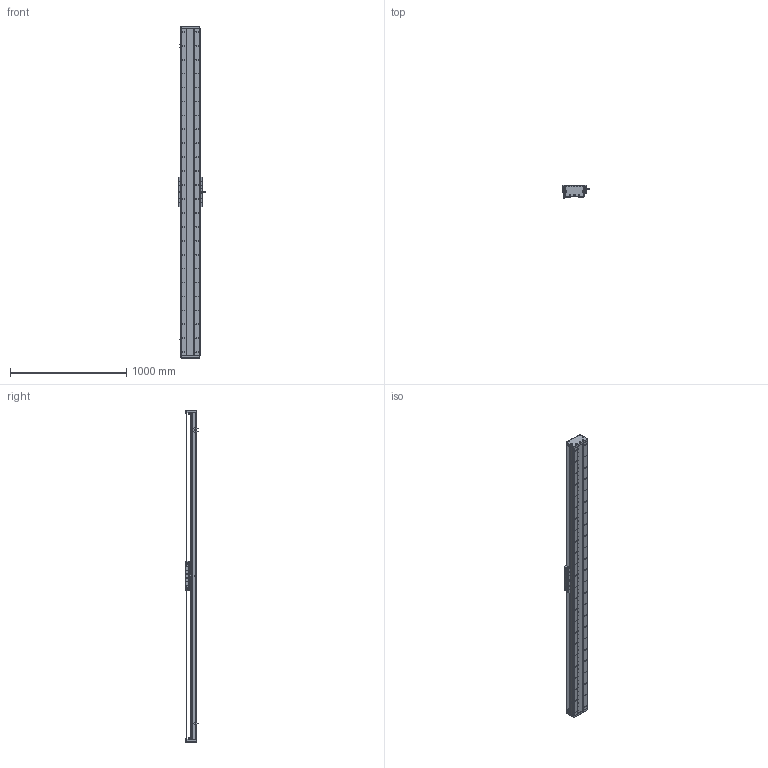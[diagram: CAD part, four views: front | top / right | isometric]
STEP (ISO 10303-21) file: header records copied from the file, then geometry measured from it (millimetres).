
FILE_DESCRIPTION (( 'STEP AP203' ), '1' );
FILE_NAME ('DA-C165-C3-T2520-C010-0.2 直线电机.STEP', '2023-06-13T08:54:33', ( '微软用户' ), ( '微软中国' ), 'SwSTEP 2.0', 'SolidWorks 2019', '' );
FILE_SCHEMA (( 'CONFIG_CONTROL_DESIGN' ));
Length unit declared in the file: millimetre
Products named in the file (18): 复件 DA165-GD-DG-H-00 端盖^复件 CU165钢带组件_DA-C165-C3-T-C010-0.2-N 直线电机; DA-C165-C3-T2520-C010-0.2 眻盄萇儂; 复件 DMA-010-0.2 读数头^DA-C165-C3-T-C010-0.2-N 直线电机; 葩璃 DA95-GT-T-00^IU-CU165-L 菁釱絳寢_T; 复件 DA95-HXJ-00 缓冲橡胶^DA-C165-C3-T-C010-0.2-N 直线电机; 珨极趙賑雄怢啣C3-wf; IU-CU165-L 菁釱絳寢; 复件 DA165-GD-1860-002-00 钢带盖板^复件 CU165钢带组件_DA-C165-C3-T-C010-0.2-N 直线电机; 葩璃 PM-T45^DA-C165-C3-T-C010-0.2-N 眻盄萇儂; 葩璃 CKM03-W075-C1C2-TP-3.0^DA-C165-C3-T-C010-0.2-N 眻盄萇儂; 复件 DA165-GDYK-00 钢带压块^复件 CU165钢带组件_DA-C165-C3-T-C010-0.2-N 直线电机; 葩璃 CKM01-W075-TRL^DA-C165-C3-T-C010-0.2-N 眻盄萇儂; 复件 CU165钢带组件^DA-C165-C3-T-C010-0.2-N 直线电机; 复件 XD-U-02L 磁栅尺^DA-C165-C3-T-C010-0.2-N 直线电机_T; 复件 DA165-GDLK-00 钢带拉块^复件 CU165钢带组件_DA-C165-C3-T-C010-0.2-N 直线电机; 复件 CU165 底座^IU-CU165-L 底座导轨_L2820; 复件 六角薄螺母 M3^DA-C165-C3-T-C010-0.2-N 直线电机_GB_FASTENER_NUT_STNAB M3-C; 复件 DA165-GYP-00 光电感应片^DA-C165-C3-T-C010-0.2-N 直线电机
Assembly tree (35 placements, depth 3):
  DA-C165-C3-T2520-C010-0.2 眻盄萇儂
    IU-CU165-L 菁釱絳寢
      复件 CU165 底座^IU-CU165-L 底座导轨_L2820
      葩璃 DA95-GT-T-00^IU-CU165-L 菁釱絳寢_T  x4
    复件 XD-U-02L 磁栅尺^DA-C165-C3-T-C010-0.2-N 直线电机_T
    葩璃 PM-T45^DA-C165-C3-T-C010-0.2-N 眻盄萇儂  x3
    葩璃 CKM01-W075-TRL^DA-C165-C3-T-C010-0.2-N 眻盄萇儂
    复件 CU165钢带组件^DA-C165-C3-T-C010-0.2-N 直线电机
      复件 DA165-GD-DG-H-00 端盖^复件 CU165钢带组件_DA-C165-C3-T-C010-0.2-N 直线电机  x2
      复件 DA165-GDYK-00 钢带压块^复件 CU165钢带组件_DA-C165-C3-T-C010-0.2-N 直线电机  x2
      复件 DA165-GD-1860-002-00 钢带盖板^复件 CU165钢带组件_DA-C165-C3-T-C010-0.2-N 直线电机
      复件 DA165-GDLK-00 钢带拉块^复件 CU165钢带组件_DA-C165-C3-T-C010-0.2-N 直线电机  x2
    复件 DA95-HXJ-00 缓冲橡胶^DA-C165-C3-T-C010-0.2-N 直线电机  x4
    复件 DA165-GYP-00 光电感应片^DA-C165-C3-T-C010-0.2-N 直线电机
    复件 DMA-010-0.2 读数头^DA-C165-C3-T-C010-0.2-N 直线电机
    葩璃 CKM03-W075-C1C2-TP-3.0^DA-C165-C3-T-C010-0.2-N 眻盄萇儂
    复件 六角薄螺母 M3^DA-C165-C3-T-C010-0.2-N 直线电机_GB_FASTENER_NUT_STNAB M3-C  x8
    珨极趙賑雄怢啣C3-wf
Bounding box: 233 x 111.45 x 2860 mm (x, y, z)
Volume: 16246297.5 mm3; surface area: 4841577.9 mm2
Topology: 72 solids, 122 shells, 4482 faces, 12937 edges, 8192 vertices
Faces by surface type: cylinder 2632, plane 1224, cone 576, torus 46, sphere 4
Entity records: 149881 total; most frequent: CARTESIAN_POINT 41119, ORIENTED_EDGE 22626, DIRECTION 21979, EDGE_CURVE 11313, AXIS2_PLACEMENT_3D 8454, VERTEX_POINT 7380, EDGE_LOOP 5243, LINE 5071
